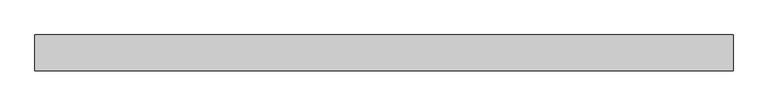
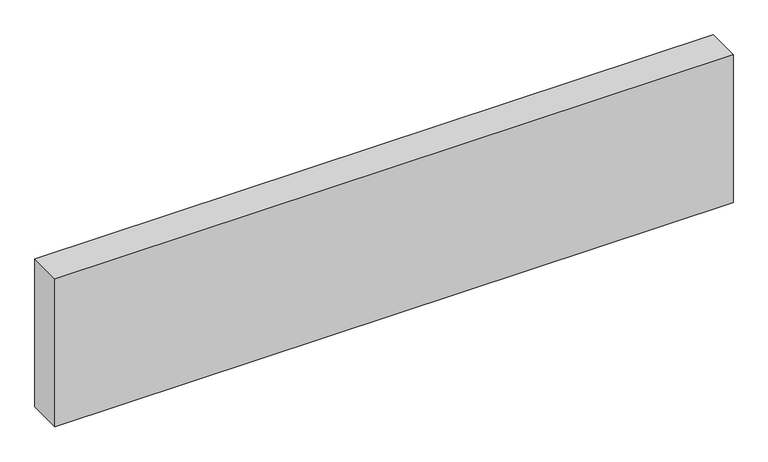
"""IFC4 building model written with IfcOpenShell, lengths in millimetres: plate geometry, Системная панель : Алюкобонд серый."""

from ifc_helpers import new_model, si_unit, origin, origin_with_axes, place, context, project, spatial, polyline, outline, extrude, source, transform, mapped, element, save


def plate_3b50d5a5(model_context):
    return source(origin(), model_context, "Body", "SweptSolid", [
        extrude(outline(polyline([(585.0, -10.5), (-585.0, -10.5), (-585.0, 49.5), (585.0, 49.5), (585.0, -10.5)])), origin_with_axes(), (0.0, 0.0, 1.0), 270.0),
    ])


if __name__ == "__main__":
    model = new_model("IFC4")
    model_context = context("Model", 3, world=origin())
    ifc_project = project(units=[si_unit("LENGTHUNIT", "METRE", prefix="MILLI")], contexts=[model_context])
    site = spatial("IfcSite", under=ifc_project)
    building = spatial("IfcBuilding", under=site)
    placement = place(None, origin())
    plate_shape = plate_3b50d5a5(model_context)
    element("IfcPlate", 1, ObjectType="Системная панель : Алюкобонд серый", at=placement, inside=building, context=model_context, shape_type="MappedRepresentation", body=[
        mapped(plate_shape, transform((0.0, 0.0, 0.0), x_axis=(1.0, 0.0, 0.0), y_axis=(0.0, 1.0, 0.0), z_axis=(0.0, 0.0, 1.0))),
    ])
    save(model, "model.ifc")
